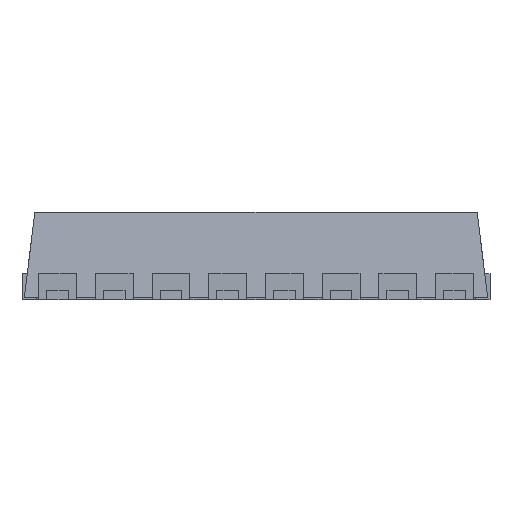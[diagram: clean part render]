
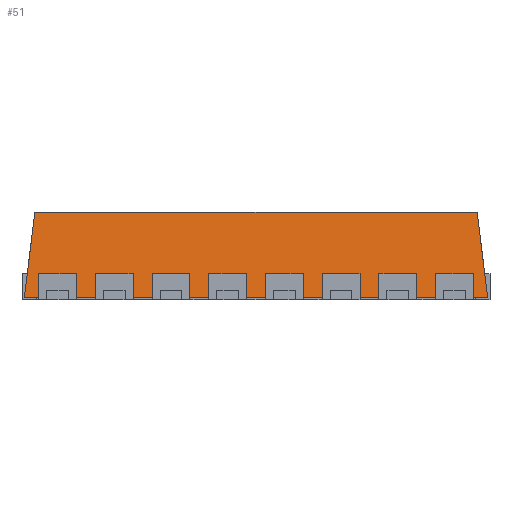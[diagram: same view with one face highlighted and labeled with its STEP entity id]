
A CAD part, front view. The second image highlights one B-rep face of the part: STEP entity #51.
In plain terms, the highlighted planar face has unit normal (0, -0.993, 0.122).
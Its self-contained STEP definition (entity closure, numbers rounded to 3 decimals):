
#51 = ADVANCED_FACE ( 'NONE', ( #3377 ), #1586, .T. ) ;
#57 = DIRECTION ( 'NONE',  ( 0.121, -0.121, -0.985 ) ) ;
#113 = EDGE_CURVE ( 'NONE', #671, #4405, #3793, .T. ) ;
#217 = VECTOR ( 'NONE', #3945, 1000. ) ;
#326 = EDGE_LOOP ( 'NONE', ( #1373, #3653, #1126, #4174 ) ) ;
#384 = CARTESIAN_POINT ( 'NONE',  ( -4.9, -5.215, 0. ) ) ;
#671 = VERTEX_POINT ( 'NONE', #2832 ) ;
#707 = VERTEX_POINT ( 'NONE', #2127 ) ;
#755 = VECTOR ( 'NONE', #3359, 1000. ) ;
#1126 = ORIENTED_EDGE ( 'NONE', *, *, #1851, .F. ) ;
#1238 = LINE ( 'NONE', #2640, #217 ) ;
#1286 = CARTESIAN_POINT ( 'NONE',  ( 4.9, -5.215, 0. ) ) ;
#1373 = ORIENTED_EDGE ( 'NONE', *, *, #3654, .T. ) ;
#1586 = PLANE ( 'NONE',  #2551 ) ;
#1851 = EDGE_CURVE ( 'NONE', #671, #707, #1238, .T. ) ;
#1976 = VECTOR ( 'NONE', #57, 1000. ) ;
#1978 = CARTESIAN_POINT ( 'NONE',  ( -4.9, -5.215, 0. ) ) ;
#2061 = CARTESIAN_POINT ( 'NONE',  ( 4.9, -5.215, 0. ) ) ;
#2127 = CARTESIAN_POINT ( 'NONE',  ( 4.679, -4.994, 1.8 ) ) ;
#2230 = CARTESIAN_POINT ( 'NONE',  ( -4.9, -5.215, 0. ) ) ;
#2354 = VERTEX_POINT ( 'NONE', #1286 ) ;
#2551 = AXIS2_PLACEMENT_3D ( 'NONE', #3337, #2632, #2974 ) ;
#2632 = DIRECTION ( 'NONE',  ( 0., -0.993, 0.122 ) ) ;
#2640 = CARTESIAN_POINT ( 'NONE',  ( 0., -4.994, 1.8 ) ) ;
#2793 = LINE ( 'NONE', #2061, #1976 ) ;
#2832 = CARTESIAN_POINT ( 'NONE',  ( -4.679, -4.994, 1.8 ) ) ;
#2974 = DIRECTION ( 'NONE',  ( -1., 0., 0. ) ) ;
#3337 = CARTESIAN_POINT ( 'NONE',  ( -4.9, -5.215, 0. ) ) ;
#3338 = LINE ( 'NONE', #1978, #755 ) ;
#3359 = DIRECTION ( 'NONE',  ( 1., 0., 0. ) ) ;
#3376 = EDGE_CURVE ( 'NONE', #707, #2354, #2793, .T. ) ;
#3377 = FACE_OUTER_BOUND ( 'NONE', #326, .T. ) ;
#3653 = ORIENTED_EDGE ( 'NONE', *, *, #3376, .F. ) ;
#3654 = EDGE_CURVE ( 'NONE', #4405, #2354, #3338, .T. ) ;
#3744 = VECTOR ( 'NONE', #3839, 1000. ) ;
#3793 = LINE ( 'NONE', #384, #3744 ) ;
#3839 = DIRECTION ( 'NONE',  ( -0.121, -0.121, -0.985 ) ) ;
#3945 = DIRECTION ( 'NONE',  ( 1., 0., 0. ) ) ;
#4174 = ORIENTED_EDGE ( 'NONE', *, *, #113, .T. ) ;
#4405 = VERTEX_POINT ( 'NONE', #2230 ) ;
